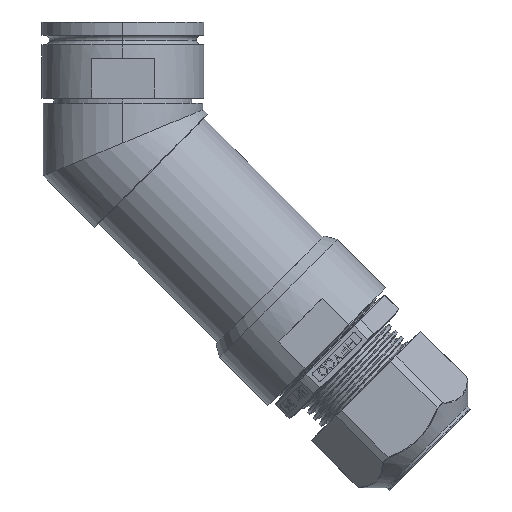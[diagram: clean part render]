
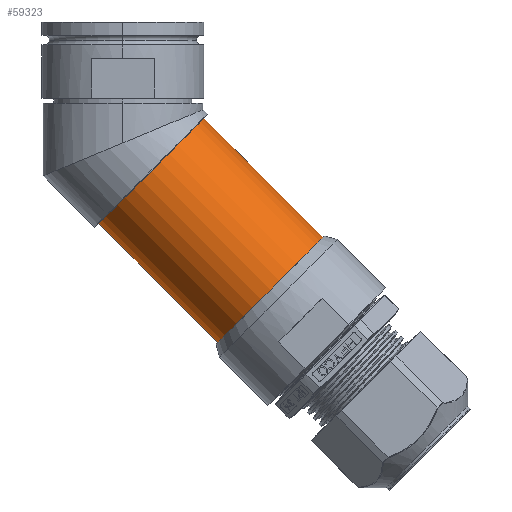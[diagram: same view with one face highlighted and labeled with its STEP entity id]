
A CAD part, left-side view. The second image highlights one B-rep face of the part: STEP entity #59323.
In plain terms, the highlighted cylindrical face has radius 17.691 mm (diameter 35.382 mm), a partial arc.
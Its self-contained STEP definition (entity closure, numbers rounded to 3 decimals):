
#428 = DIRECTION ( 'NONE',  ( 0., 0.707, 0.707 ) ) ;
#2507 = CARTESIAN_POINT ( 'NONE',  ( 0., 5.766, -42.378 ) ) ;
#3511 = VERTEX_POINT ( 'NONE', #46859 ) ;
#4085 = EDGE_CURVE ( 'NONE', #3511, #16758, #14139, .T. ) ;
#5836 = LINE ( 'NONE', #35539, #46978 ) ;
#6766 = VECTOR ( 'NONE', #53247, 1000. ) ;
#6893 = AXIS2_PLACEMENT_3D ( 'NONE', #29490, #428, #49223 ) ;
#9136 = CARTESIAN_POINT ( 'NONE',  ( 0., -6.743, -29.869 ) ) ;
#12692 = ORIENTED_EDGE ( 'NONE', *, *, #18951, .F. ) ;
#14139 = LINE ( 'NONE', #33835, #6766 ) ;
#14956 = CYLINDRICAL_SURFACE ( 'NONE', #6893, 17.691 ) ;
#16758 = VERTEX_POINT ( 'NONE', #28088 ) ;
#18951 = EDGE_CURVE ( 'NONE', #60500, #49228, #5836, .T. ) ;
#20570 = ORIENTED_EDGE ( 'NONE', *, *, #21764, .F. ) ;
#20865 = DIRECTION ( 'NONE',  ( 0., 0.707, -0.707 ) ) ;
#21764 = EDGE_CURVE ( 'NONE', #49228, #16758, #22317, .T. ) ;
#22317 = CIRCLE ( 'NONE', #25392, 17.691 ) ;
#23236 = CARTESIAN_POINT ( 'NONE',  ( 0., -22.558, -70.702 ) ) ;
#25392 = AXIS2_PLACEMENT_3D ( 'NONE', #9136, #60366, #45517 ) ;
#25709 = CARTESIAN_POINT ( 'NONE',  ( 0., -35.067, -58.193 ) ) ;
#26341 = DIRECTION ( 'NONE',  ( 0., -0.707, -0.707 ) ) ;
#28088 = CARTESIAN_POINT ( 'NONE',  ( 0., -19.253, -17.359 ) ) ;
#29185 = FACE_OUTER_BOUND ( 'NONE', #57231, .T. ) ;
#29490 = CARTESIAN_POINT ( 'NONE',  ( 0., -6.743, -29.869 ) ) ;
#32047 = EDGE_CURVE ( 'NONE', #3511, #60500, #40008, .T. ) ;
#33835 = CARTESIAN_POINT ( 'NONE',  ( 0., -19.253, -17.359 ) ) ;
#33875 = ORIENTED_EDGE ( 'NONE', *, *, #32047, .F. ) ;
#35539 = CARTESIAN_POINT ( 'NONE',  ( 0., 5.766, -42.378 ) ) ;
#40008 = CIRCLE ( 'NONE', #56545, 17.691 ) ;
#40389 = DIRECTION ( 'NONE',  ( 0., 0.707, 0.707 ) ) ;
#40654 = ORIENTED_EDGE ( 'NONE', *, *, #4085, .T. ) ;
#45517 = DIRECTION ( 'NONE',  ( 0., -0.707, 0.707 ) ) ;
#46859 = CARTESIAN_POINT ( 'NONE',  ( 0., -47.577, -45.683 ) ) ;
#46978 = VECTOR ( 'NONE', #40389, 1000. ) ;
#49223 = DIRECTION ( 'NONE',  ( 0., -0.707, 0.707 ) ) ;
#49228 = VERTEX_POINT ( 'NONE', #2507 ) ;
#53247 = DIRECTION ( 'NONE',  ( 0., 0.707, 0.707 ) ) ;
#56545 = AXIS2_PLACEMENT_3D ( 'NONE', #25709, #26341, #20865 ) ;
#57231 = EDGE_LOOP ( 'NONE', ( #12692, #33875, #40654, #20570 ) ) ;
#59323 = ADVANCED_FACE ( 'NONE', ( #29185 ), #14956, .T. ) ;
#60366 = DIRECTION ( 'NONE',  ( 0., 0.707, 0.707 ) ) ;
#60500 = VERTEX_POINT ( 'NONE', #23236 ) ;
